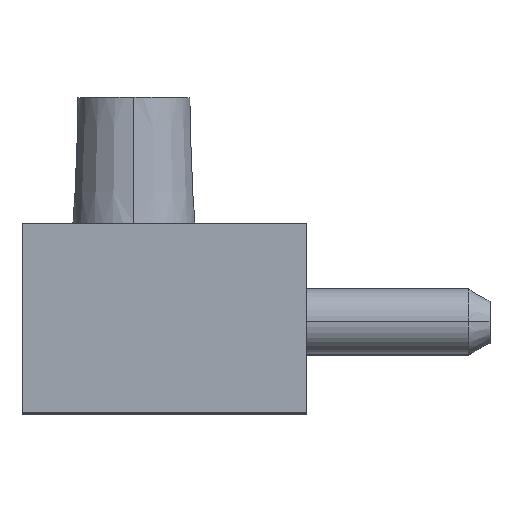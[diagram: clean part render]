
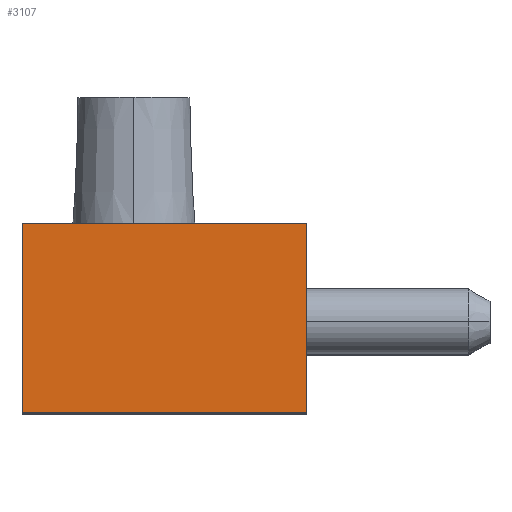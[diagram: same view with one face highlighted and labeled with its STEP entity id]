
A CAD part, top view. The second image highlights one B-rep face of the part: STEP entity #3107.
In plain terms, the highlighted planar face has unit normal (0, 0, 1).
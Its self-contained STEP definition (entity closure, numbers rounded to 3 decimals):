
#2707 = VERTEX_POINT ( 'NONE', #9334 ) ;
#2710 = EDGE_CURVE ( 'NONE', #2711, #2707, #9332, .T. ) ;
#2711 = VERTEX_POINT ( 'NONE', #9328 ) ;
#3103 = VERTEX_POINT ( 'NONE', #10030 ) ;
#3106 = EDGE_CURVE ( 'NONE', #2707, #3103, #10023, .T. ) ;
#3107 = ADVANCED_FACE ( 'NONE', ( #10019 ), #10017, .T. ) ;
#3108 = EDGE_LOOP ( 'NONE', ( #3109, #3112, #3113, #3114 ) ) ;
#3109 = ORIENTED_EDGE ( 'NONE', *, *, #3110, .T. ) ;
#3110 = EDGE_CURVE ( 'NONE', #3111, #2711, #10009, .T. ) ;
#3111 = VERTEX_POINT ( 'NONE', #10005 ) ;
#3112 = ORIENTED_EDGE ( 'NONE', *, *, #2710, .T. ) ;
#3113 = ORIENTED_EDGE ( 'NONE', *, *, #3106, .T. ) ;
#3114 = ORIENTED_EDGE ( 'NONE', *, *, #3115, .T. ) ;
#3115 = EDGE_CURVE ( 'NONE', #3103, #3111, #10004, .T. ) ;
#9328 = CARTESIAN_POINT ( 'NONE',  ( -7., 0., 0. ) ) ;
#9329 = DIRECTION ( 'NONE',  ( 1., 0., 0. ) ) ;
#9330 = VECTOR ( 'NONE', #9329, 1000. ) ;
#9331 = CARTESIAN_POINT ( 'NONE',  ( 0., 0., 0. ) ) ;
#9332 = LINE ( 'NONE', #9331, #9330 ) ;
#9334 = CARTESIAN_POINT ( 'NONE',  ( 7., 0., 0. ) ) ;
#10001 = DIRECTION ( 'NONE',  ( -1., 0., 0. ) ) ;
#10002 = VECTOR ( 'NONE', #10001, 1000. ) ;
#10003 = CARTESIAN_POINT ( 'NONE',  ( 0., 9.3, 0. ) ) ;
#10004 = LINE ( 'NONE', #10003, #10002 ) ;
#10005 = CARTESIAN_POINT ( 'NONE',  ( -7., 9.3, 0. ) ) ;
#10006 = DIRECTION ( 'NONE',  ( 0., -1., 0. ) ) ;
#10007 = VECTOR ( 'NONE', #10006, 1000. ) ;
#10008 = CARTESIAN_POINT ( 'NONE',  ( -7., 4.65, 0. ) ) ;
#10009 = LINE ( 'NONE', #10008, #10007 ) ;
#10012 = DIRECTION ( 'NONE',  ( 1., 0., 0. ) ) ;
#10014 = DIRECTION ( 'NONE',  ( 0., 0., 1. ) ) ;
#10015 = CARTESIAN_POINT ( 'NONE',  ( -7., 0., 0. ) ) ;
#10016 = AXIS2_PLACEMENT_3D ( 'NONE', #10015, #10014, #10012 ) ;
#10017 = PLANE ( 'NONE',  #10016 ) ;
#10019 = FACE_OUTER_BOUND ( 'NONE', #3108, .T. ) ;
#10020 = DIRECTION ( 'NONE',  ( 0., 1., 0. ) ) ;
#10021 = VECTOR ( 'NONE', #10020, 1000. ) ;
#10022 = CARTESIAN_POINT ( 'NONE',  ( 7., 4.65, 0. ) ) ;
#10023 = LINE ( 'NONE', #10022, #10021 ) ;
#10030 = CARTESIAN_POINT ( 'NONE',  ( 7., 9.3, 0. ) ) ;
